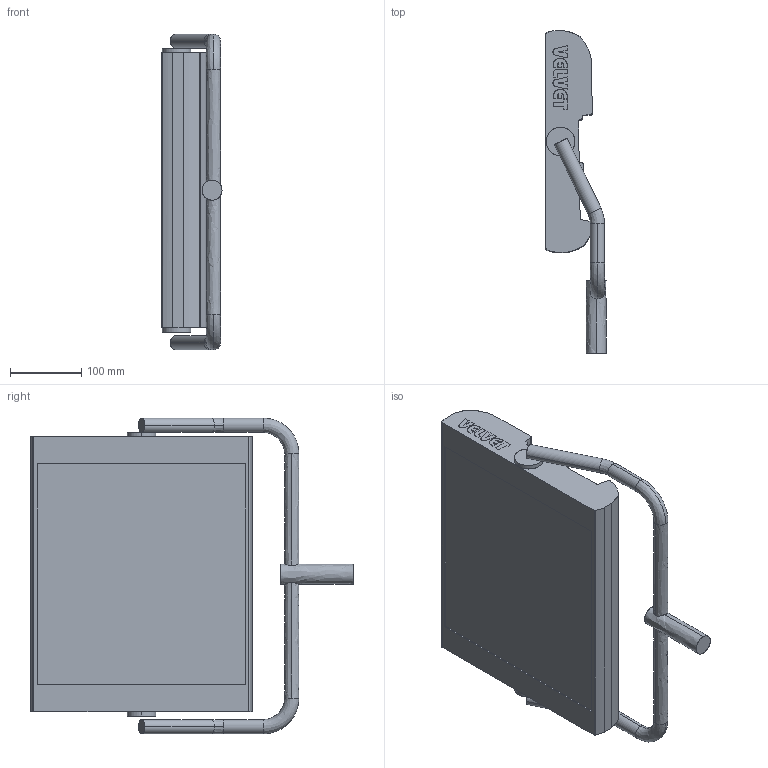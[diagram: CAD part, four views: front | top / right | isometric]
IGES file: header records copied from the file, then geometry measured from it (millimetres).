
Start section: SolidWorks IGES file using analytic representation for surfaces
Global section: file name: C:\Users\Eddy\Desktop\POWER1.IGS; native system: SolidWorks 2023; preprocessor: SolidWorks 2023; author: Eddy; date: 240714.160733; units: millimetre
Bounding box: 84 x 451.21 x 442 mm (x, y, z)
Surface area: 384625.4 mm2 (no closed solid volume)
Topology: 0 solids, 0 shells, 302 faces, 4272 edges, 4272 vertices
Faces by surface type: bspline 265, revolution 37
